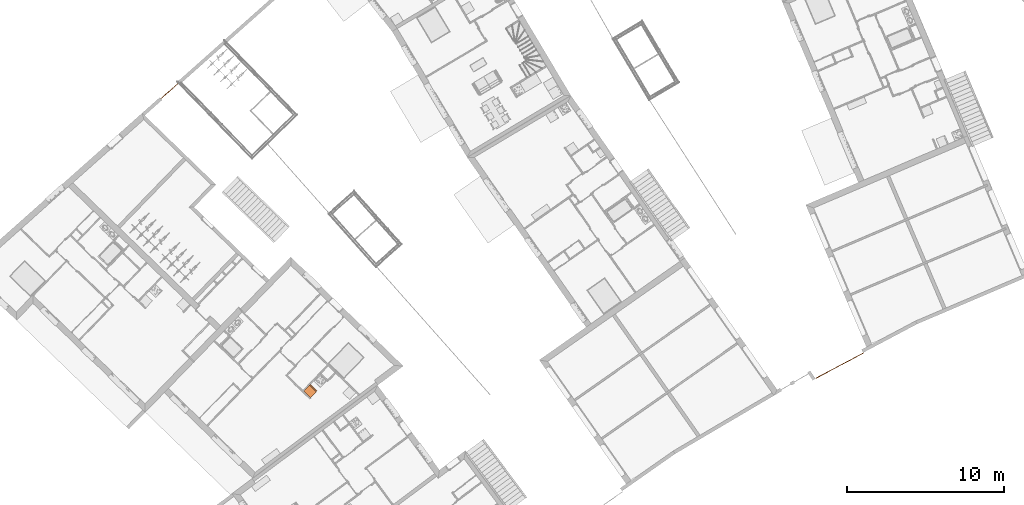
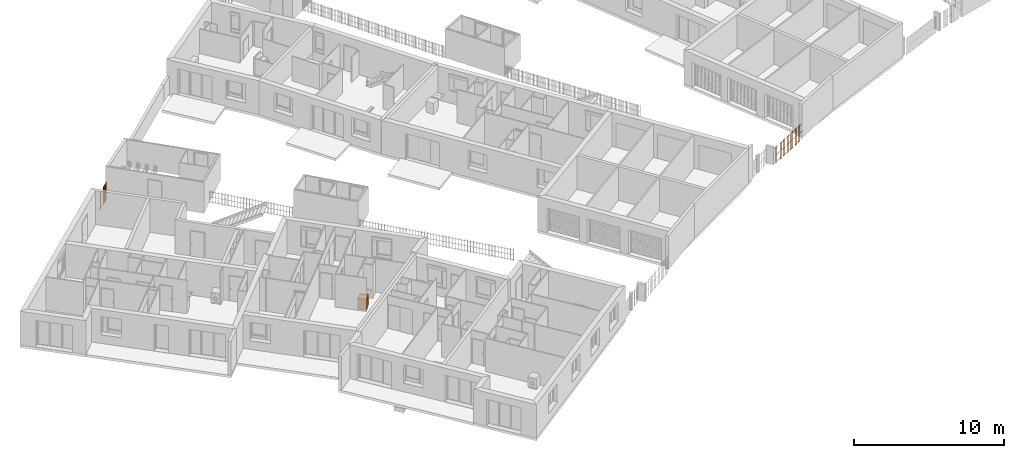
# One storey, part 172 of 195: 3 proxies.
"""IFC2X3 building model written with IfcOpenShell, lengths in metres."""

from ifc_helpers import new_model, entity, si_unit, converted_unit, derived_unit, money_unit, direction, frame, origin_with_axes, place, context, subcontext, project, spatial, open_shell, faceted_brep, surface_model, source, transform, mapped, type_object, element, save


model = new_model("IFC2X3")

# Units and contexts
model_context = context("Model", 3, precision=1e-05, world=origin_with_axes(), true_north=direction((0.0, 1.0)))
body_context = subcontext(model_context, "Body", "Model", "MODEL_VIEW")
ifc_project = project(units=[si_unit("LENGTHUNIT", "METRE"), si_unit("AREAUNIT", "SQUARE_METRE"), si_unit("VOLUMEUNIT", "CUBIC_METRE"), converted_unit("PLANEANGLEUNIT", "DEGREE", entity("IfcPlaneAngleMeasure", 0.0174532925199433), si_unit("PLANEANGLEUNIT", "RADIAN"), dimensions=[0, 0, 0, 0, 0, 0, 0]), money_unit("CHF"), converted_unit("TIMEUNIT", "Year", entity("IfcTimeMeasure", 31557600.0), si_unit("TIMEUNIT", "SECOND"), dimensions=[0, 0, 1, 0, 0, 0, 0]), si_unit("MASSUNIT", "GRAM", prefix="KILO"), si_unit("THERMODYNAMICTEMPERATUREUNIT", "DEGREE_CELSIUS"), si_unit("LUMINOUSINTENSITYUNIT", "LUMEN"), si_unit("ENERGYUNIT", "JOULE", prefix="MEGA"), derived_unit("THERMALCONDUCTANCEUNIT", [(si_unit("POWERUNIT", "WATT"), 1), (si_unit("LENGTHUNIT", "METRE"), -1), (si_unit("THERMODYNAMICTEMPERATUREUNIT", "KELVIN"), -1)]), derived_unit("SPECIFICHEATCAPACITYUNIT", [(si_unit("ENERGYUNIT", "JOULE"), 1), (si_unit("MASSUNIT", "GRAM", prefix="KILO"), -1), (si_unit("THERMODYNAMICTEMPERATUREUNIT", "KELVIN"), -1)]), derived_unit("MASSDENSITYUNIT", [(si_unit("MASSUNIT", "GRAM", prefix="KILO"), 1), (si_unit("VOLUMEUNIT", "CUBIC_METRE"), -1)])], contexts=[model_context])

# Site, building, storey
site_placement = place(None, origin_with_axes())
site = spatial("IfcSite", under=ifc_project, at=site_placement, Name="Site", CompositionType="ELEMENT")
building_placement = place(site_placement, origin_with_axes())
building = spatial("IfcBuilding", under=site, at=building_placement, Name="Bâtiment", CompositionType="ELEMENT")
storey_placement = place(building_placement, origin_with_axes())
storey = spatial("IfcBuildingStorey", under=building, at=storey_placement, Name="rdc", CompositionType="ELEMENT", Elevation=0.0)

# Proxies
building_element_proxy_type_1 = type_object("IfcBuildingElementProxyType", PredefinedType="NOTDEFINED")
shared_shape_1 = source(origin_with_axes(), body_context, "Body", "SurfaceModel", [
    faceted_brep([(0.0, 0.08, 0.1), (0.0, 0.08, 0.9), (-0.6, 0.08, 0.9), (-0.6, 0.08, 0.1), (0.0, 0.6, 0.1), (0.0, 0.6, 0.9), (-0.6, 0.6, 0.9), (-0.6, 0.6, 0.1)], [[[0, 1, 2, 3]], [[4, 5, 1, 0]], [[1, 5, 6, 2]], [[3, 2, 6, 7]], [[0, 3, 7, 4]], [[7, 6, 5, 4]]]),
    faceted_brep([(0.0, 0.08, 0.0), (0.0, 0.08, 0.1), (-0.6, 0.08, 0.1), (-0.6, 0.08, 0.0), (0.0, 0.6, 0.0), (0.0, 0.6, 0.1), (-0.6, 0.6, 0.1), (-0.6, 0.6, 0.0)], [[[0, 1, 2, 3]], [[4, 5, 1, 0]], [[1, 5, 6, 2]], [[3, 2, 6, 7]], [[0, 3, 7, 4]], [[7, 6, 5, 4]]]),
    faceted_brep([(0.0, 0.07, 0.1), (0.0, 0.0, 0.1), (-0.6, 0.0, 0.1), (-0.6, 0.07, 0.1), (0.0, 0.07000000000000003, 0.494), (0.0, 0.0, 0.494), (-0.6, 0.0, 0.494), (-0.6, 0.07000000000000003, 0.494)], [[[0, 1, 2, 3]], [[4, 5, 1, 0]], [[1, 5, 6, 2]], [[3, 2, 6, 7]], [[0, 3, 7, 4]], [[7, 6, 5, 4]]]),
    faceted_brep([(0.0, 0.07, 0.5), (0.0, 0.0, 0.5), (-0.6, 0.0, 0.5), (-0.6, 0.07, 0.5), (0.0, 0.07000000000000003, 0.9), (0.0, 0.0, 0.9), (-0.6, 0.0, 0.9), (-0.6, 0.07000000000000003, 0.9)], [[[0, 1, 2, 3]], [[4, 5, 1, 0]], [[1, 5, 6, 2]], [[3, 2, 6, 7]], [[0, 3, 7, 4]], [[7, 6, 5, 4]]]),
    surface_model("IfcShellBasedSurfaceModel", [(-0.6, -0.03, 0.3), (-0.6, 0.0, 0.3), (-0.6, 0.0, 0.4940000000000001), (-0.6, -0.03, 0.4940000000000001)], [open_shell([[[0, 1, 2, 3]]])]),
    surface_model("IfcShellBasedSurfaceModel", [(-0.6, -0.03, 0.3), (-0.57, -0.03, 0.3), (-0.57, -0.03, 0.4940000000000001), (-0.6, -0.03, 0.4940000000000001)], [open_shell([[[0, 1, 2, 3]]])]),
    surface_model("IfcShellBasedSurfaceModel", [(-0.6, -0.03, 0.5), (-0.6, 0.0, 0.5), (-0.6, 0.0, 0.7), (-0.6, -0.03, 0.7)], [open_shell([[[0, 1, 2, 3]]])]),
    surface_model("IfcShellBasedSurfaceModel", [(-0.6, -0.03, 0.5), (-0.57, -0.03, 0.5), (-0.57, -0.03, 0.7), (-0.6, -0.03, 0.7)], [open_shell([[[0, 1, 2, 3]]])]),
])
proxy_1_placement = place(storey_placement, frame((9533.23525521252, -1069.65949358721, 57.7), z_axis=(0.0, 0.0, 1.0), x_axis=(-0.7182234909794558, 0.6958124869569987, 0.0)))
element("IfcBuildingElementProxy", 1, at=proxy_1_placement, inside=storey, type_object=building_element_proxy_type_1, Name="Obj.-019", context=body_context, shape_type="MappedRepresentation", body=[
    mapped(shared_shape_1, transform((0.0, 0.0, 0.0))),
])
building_element_proxy_type_2 = type_object("IfcBuildingElementProxyType", Name="Grille anti-effraction", PredefinedType="NOTDEFINED")
shared_shape_2 = source(origin_with_axes(), body_context, "Body", "Brep", [
    faceted_brep([(1.707795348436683, -0.01, 0.1), (1.707795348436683, 0.0, 0.09000000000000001), (1.707795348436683, 0.01, 0.1), (1.707795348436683, 0.0, 0.11), (-1.707795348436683, -0.01, 0.1000000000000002), (-1.707795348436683, 0.0, 0.09000000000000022), (-1.707795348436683, 0.01, 0.1000000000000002), (-1.707795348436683, 0.0, 0.1100000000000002)], [[[0, 1, 2, 3]], [[0, 4, 5, 1]], [[1, 5, 6, 2]], [[2, 6, 7, 3]], [[3, 7, 4, 0]], [[4, 7, 6, 5]]]),
    faceted_brep([(1.707795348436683, -0.01, 0.7), (1.707795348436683, 0.0, 0.69), (1.707795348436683, 0.01, 0.7), (1.707795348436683, 0.0, 0.71), (-1.707795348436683, -0.01, 0.7000000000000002), (-1.707795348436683, 0.0, 0.6900000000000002), (-1.707795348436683, 0.01, 0.7000000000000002), (-1.707795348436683, 0.0, 0.7100000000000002)], [[[0, 1, 2, 3]], [[0, 4, 5, 1]], [[1, 5, 6, 2]], [[2, 6, 7, 3]], [[3, 7, 4, 0]], [[4, 7, 6, 5]]]),
    faceted_brep([(1.707795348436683, -0.01, 1.3), (1.707795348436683, 0.0, 1.29), (1.707795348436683, 0.01, 1.3), (1.707795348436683, 0.0, 1.31), (-1.707795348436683, -0.01, 1.3), (-1.707795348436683, 0.0, 1.29), (-1.707795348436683, 0.01, 1.3), (-1.707795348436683, 0.0, 1.31)], [[[0, 1, 2, 3]], [[0, 4, 5, 1]], [[1, 5, 6, 2]], [[2, 6, 7, 3]], [[3, 7, 4, 0]], [[4, 7, 6, 5]]]),
    faceted_brep([(1.607795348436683, -0.01, 0.0), (1.597795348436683, 0.0, 0.0), (1.607795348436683, 0.01, 0.0), (1.617795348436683, 0.0, 0.0), (1.607795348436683, -0.01, 1.4), (1.597795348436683, 0.0, 1.4), (1.607795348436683, 0.01, 1.4), (1.617795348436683, 0.0, 1.4)], [[[0, 1, 2, 3]], [[0, 4, 5, 1]], [[1, 5, 6, 2]], [[2, 6, 7, 3]], [[3, 7, 4, 0]], [[4, 7, 6, 5]]]),
    faceted_brep([(1.496912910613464, -0.01, 0.0), (1.486912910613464, 0.0, 0.0), (1.496912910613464, 0.01, 0.0), (1.506912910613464, 0.0, 0.0), (1.496912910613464, -0.01, 1.4), (1.486912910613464, 0.0, 1.4), (1.496912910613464, 0.01, 1.4), (1.506912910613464, 0.0, 1.4)], [[[0, 1, 2, 3]], [[0, 4, 5, 1]], [[1, 5, 6, 2]], [[2, 6, 7, 3]], [[3, 7, 4, 0]], [[4, 7, 6, 5]]]),
    faceted_brep([(1.386030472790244, -0.01, 0.0), (1.376030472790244, 0.0, 0.0), (1.386030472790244, 0.01, 0.0), (1.396030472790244, 0.0, 0.0), (1.386030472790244, -0.01, 1.4), (1.376030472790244, 0.0, 1.4), (1.386030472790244, 0.01, 1.4), (1.396030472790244, 0.0, 1.4)], [[[0, 1, 2, 3]], [[0, 4, 5, 1]], [[1, 5, 6, 2]], [[2, 6, 7, 3]], [[3, 7, 4, 0]], [[4, 7, 6, 5]]]),
    faceted_brep([(1.275148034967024, -0.01, 0.0), (1.265148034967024, 0.0, 0.0), (1.275148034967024, 0.01, 0.0), (1.285148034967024, 0.0, 0.0), (1.275148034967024, -0.01, 1.4), (1.265148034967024, 0.0, 1.4), (1.275148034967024, 0.01, 1.4), (1.285148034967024, 0.0, 1.4)], [[[0, 1, 2, 3]], [[0, 4, 5, 1]], [[1, 5, 6, 2]], [[2, 6, 7, 3]], [[3, 7, 4, 0]], [[4, 7, 6, 5]]]),
    faceted_brep([(1.164265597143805, -0.01, 0.0), (1.154265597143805, 0.0, 0.0), (1.164265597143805, 0.01, 0.0), (1.174265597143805, 0.0, 0.0), (1.164265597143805, -0.01, 1.4), (1.154265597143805, 0.0, 1.4), (1.164265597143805, 0.01, 1.4), (1.174265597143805, 0.0, 1.4)], [[[0, 1, 2, 3]], [[0, 4, 5, 1]], [[1, 5, 6, 2]], [[2, 6, 7, 3]], [[3, 7, 4, 0]], [[4, 7, 6, 5]]]),
    faceted_brep([(1.053383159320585, -0.01, 0.0), (1.043383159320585, 0.0, 0.0), (1.053383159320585, 0.01, 0.0), (1.063383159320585, 0.0, 0.0), (1.053383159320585, -0.01, 1.4), (1.043383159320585, 0.0, 1.4), (1.053383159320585, 0.01, 1.4), (1.063383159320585, 0.0, 1.4)], [[[0, 1, 2, 3]], [[0, 4, 5, 1]], [[1, 5, 6, 2]], [[2, 6, 7, 3]], [[3, 7, 4, 0]], [[4, 7, 6, 5]]]),
    faceted_brep([(0.9425007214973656, -0.01, 0.0), (0.9325007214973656, 0.0, 0.0), (0.9425007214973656, 0.01, 0.0), (0.9525007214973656, 0.0, 0.0), (0.9425007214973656, -0.01, 1.4), (0.9325007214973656, 0.0, 1.4), (0.9425007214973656, 0.01, 1.4), (0.9525007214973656, 0.0, 1.4)], [[[0, 1, 2, 3]], [[0, 4, 5, 1]], [[1, 5, 6, 2]], [[2, 6, 7, 3]], [[3, 7, 4, 0]], [[4, 7, 6, 5]]]),
    faceted_brep([(0.8316182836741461, -0.01, 0.0), (0.8216182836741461, 0.0, 0.0), (0.8316182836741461, 0.01, 0.0), (0.8416182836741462, 0.0, 0.0), (0.8316182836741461, -0.01, 1.4), (0.8216182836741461, 0.0, 1.4), (0.8316182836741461, 0.01, 1.4), (0.8416182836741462, 0.0, 1.4)], [[[0, 1, 2, 3]], [[0, 4, 5, 1]], [[1, 5, 6, 2]], [[2, 6, 7, 3]], [[3, 7, 4, 0]], [[4, 7, 6, 5]]]),
    faceted_brep([(0.7207358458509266, -0.01, 0.0), (0.7107358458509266, 0.0, 0.0), (0.7207358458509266, 0.01, 0.0), (0.7307358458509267, 0.0, 0.0), (0.7207358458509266, -0.01, 1.4), (0.7107358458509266, 0.0, 1.4), (0.7207358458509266, 0.01, 1.4), (0.7307358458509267, 0.0, 1.4)], [[[0, 1, 2, 3]], [[0, 4, 5, 1]], [[1, 5, 6, 2]], [[2, 6, 7, 3]], [[3, 7, 4, 0]], [[4, 7, 6, 5]]]),
    faceted_brep([(0.6098534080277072, -0.01, 0.0), (0.5998534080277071, 0.0, 0.0), (0.6098534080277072, 0.01, 0.0), (0.6198534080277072, 0.0, 0.0), (0.6098534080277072, -0.01, 1.4), (0.5998534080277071, 0.0, 1.4), (0.6098534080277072, 0.01, 1.4), (0.6198534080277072, 0.0, 1.4)], [[[0, 1, 2, 3]], [[0, 4, 5, 1]], [[1, 5, 6, 2]], [[2, 6, 7, 3]], [[3, 7, 4, 0]], [[4, 7, 6, 5]]]),
    faceted_brep([(0.4989709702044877, -0.01, 0.0), (0.4889709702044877, 0.0, 0.0), (0.4989709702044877, 0.01, 0.0), (0.5089709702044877, 0.0, 0.0), (0.4989709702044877, -0.01, 1.4), (0.4889709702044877, 0.0, 1.4), (0.4989709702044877, 0.01, 1.4), (0.5089709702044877, 0.0, 1.4)], [[[0, 1, 2, 3]], [[0, 4, 5, 1]], [[1, 5, 6, 2]], [[2, 6, 7, 3]], [[3, 7, 4, 0]], [[4, 7, 6, 5]]]),
    faceted_brep([(0.3880885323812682, -0.01, 0.0), (0.3780885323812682, 0.0, 0.0), (0.3880885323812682, 0.01, 0.0), (0.3980885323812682, 0.0, 0.0), (0.3880885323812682, -0.01, 1.4), (0.3780885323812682, 0.0, 1.4), (0.3880885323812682, 0.01, 1.4), (0.3980885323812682, 0.0, 1.4)], [[[0, 1, 2, 3]], [[0, 4, 5, 1]], [[1, 5, 6, 2]], [[2, 6, 7, 3]], [[3, 7, 4, 0]], [[4, 7, 6, 5]]]),
    faceted_brep([(0.2772060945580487, -0.01, 0.0), (0.2672060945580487, 0.0, 0.0), (0.2772060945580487, 0.01, 0.0), (0.2872060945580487, 0.0, 0.0), (0.2772060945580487, -0.01, 1.4), (0.2672060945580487, 0.0, 1.4), (0.2772060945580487, 0.01, 1.4), (0.2872060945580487, 0.0, 1.4)], [[[0, 1, 2, 3]], [[0, 4, 5, 1]], [[1, 5, 6, 2]], [[2, 6, 7, 3]], [[3, 7, 4, 0]], [[4, 7, 6, 5]]]),
    faceted_brep([(0.1663236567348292, -0.01, 0.0), (0.1563236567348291, 0.0, 0.0), (0.1663236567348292, 0.01, 0.0), (0.1763236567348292, 0.0, 0.0), (0.1663236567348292, -0.01, 1.4), (0.1563236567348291, 0.0, 1.4), (0.1663236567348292, 0.01, 1.4), (0.1763236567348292, 0.0, 1.4)], [[[0, 1, 2, 3]], [[0, 4, 5, 1]], [[1, 5, 6, 2]], [[2, 6, 7, 3]], [[3, 7, 4, 0]], [[4, 7, 6, 5]]]),
    faceted_brep([(0.05544121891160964, -0.01, 0.0), (0.04544121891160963, 0.0, 0.0), (0.05544121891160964, 0.01, 0.0), (0.06544121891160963, 0.0, 0.0), (0.05544121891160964, -0.01, 1.4), (0.04544121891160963, 0.0, 1.4), (0.05544121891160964, 0.01, 1.4), (0.06544121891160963, 0.0, 1.4)], [[[0, 1, 2, 3]], [[0, 4, 5, 1]], [[1, 5, 6, 2]], [[2, 6, 7, 3]], [[3, 7, 4, 0]], [[4, 7, 6, 5]]]),
    faceted_brep([(-0.05544121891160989, -0.01, 0.0), (-0.06544121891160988, 0.0, 0.0), (-0.05544121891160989, 0.01, 0.0), (-0.04544121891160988, 0.0, 0.0), (-0.05544121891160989, -0.01, 1.4), (-0.06544121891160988, 0.0, 1.4), (-0.05544121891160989, 0.01, 1.4), (-0.04544121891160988, 0.0, 1.4)], [[[0, 1, 2, 3]], [[0, 4, 5, 1]], [[1, 5, 6, 2]], [[2, 6, 7, 3]], [[3, 7, 4, 0]], [[4, 7, 6, 5]]]),
    faceted_brep([(-0.1663236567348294, -0.01, 0.0), (-0.1763236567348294, 0.0, 0.0), (-0.1663236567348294, 0.01, 0.0), (-0.1563236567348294, 0.0, 0.0), (-0.1663236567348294, -0.01, 1.4), (-0.1763236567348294, 0.0, 1.4), (-0.1663236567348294, 0.01, 1.4), (-0.1563236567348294, 0.0, 1.4)], [[[0, 1, 2, 3]], [[0, 4, 5, 1]], [[1, 5, 6, 2]], [[2, 6, 7, 3]], [[3, 7, 4, 0]], [[4, 7, 6, 5]]]),
    faceted_brep([(-0.2772060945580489, -0.01, 0.0), (-0.2872060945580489, 0.0, 0.0), (-0.2772060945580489, 0.01, 0.0), (-0.2672060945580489, 0.0, 0.0), (-0.2772060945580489, -0.01, 1.4), (-0.2872060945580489, 0.0, 1.4), (-0.2772060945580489, 0.01, 1.4), (-0.2672060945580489, 0.0, 1.4)], [[[0, 1, 2, 3]], [[0, 4, 5, 1]], [[1, 5, 6, 2]], [[2, 6, 7, 3]], [[3, 7, 4, 0]], [[4, 7, 6, 5]]]),
    faceted_brep([(-0.3880885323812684, -0.01, 0.0), (-0.3980885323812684, 0.0, 0.0), (-0.3880885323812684, 0.01, 0.0), (-0.3780885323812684, 0.0, 0.0), (-0.3880885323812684, -0.01, 1.4), (-0.3980885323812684, 0.0, 1.4), (-0.3880885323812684, 0.01, 1.4), (-0.3780885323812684, 0.0, 1.4)], [[[0, 1, 2, 3]], [[0, 4, 5, 1]], [[1, 5, 6, 2]], [[2, 6, 7, 3]], [[3, 7, 4, 0]], [[4, 7, 6, 5]]]),
    faceted_brep([(-0.4989709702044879, -0.01, 0.0), (-0.5089709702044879, 0.0, 0.0), (-0.4989709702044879, 0.01, 0.0), (-0.4889709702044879, 0.0, 0.0), (-0.4989709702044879, -0.01, 1.4), (-0.5089709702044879, 0.0, 1.4), (-0.4989709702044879, 0.01, 1.4), (-0.4889709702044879, 0.0, 1.4)], [[[0, 1, 2, 3]], [[0, 4, 5, 1]], [[1, 5, 6, 2]], [[2, 6, 7, 3]], [[3, 7, 4, 0]], [[4, 7, 6, 5]]]),
    faceted_brep([(-0.6098534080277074, -0.01, 0.0), (-0.6198534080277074, 0.0, 0.0), (-0.6098534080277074, 0.01, 0.0), (-0.5998534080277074, 0.0, 0.0), (-0.6098534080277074, -0.01, 1.4), (-0.6198534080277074, 0.0, 1.4), (-0.6098534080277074, 0.01, 1.4), (-0.5998534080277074, 0.0, 1.4)], [[[0, 1, 2, 3]], [[0, 4, 5, 1]], [[1, 5, 6, 2]], [[2, 6, 7, 3]], [[3, 7, 4, 0]], [[4, 7, 6, 5]]]),
    faceted_brep([(-0.7207358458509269, -0.01, 0.0), (-0.7307358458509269, 0.0, 0.0), (-0.7207358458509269, 0.01, 0.0), (-0.7107358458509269, 0.0, 0.0), (-0.7207358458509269, -0.01, 1.4), (-0.7307358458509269, 0.0, 1.4), (-0.7207358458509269, 0.01, 1.4), (-0.7107358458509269, 0.0, 1.4)], [[[0, 1, 2, 3]], [[0, 4, 5, 1]], [[1, 5, 6, 2]], [[2, 6, 7, 3]], [[3, 7, 4, 0]], [[4, 7, 6, 5]]]),
    faceted_brep([(-0.8316182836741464, -0.01, 0.0), (-0.8416182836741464, 0.0, 0.0), (-0.8316182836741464, 0.01, 0.0), (-0.8216182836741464, 0.0, 0.0), (-0.8316182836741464, -0.01, 1.4), (-0.8416182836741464, 0.0, 1.4), (-0.8316182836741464, 0.01, 1.4), (-0.8216182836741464, 0.0, 1.4)], [[[0, 1, 2, 3]], [[0, 4, 5, 1]], [[1, 5, 6, 2]], [[2, 6, 7, 3]], [[3, 7, 4, 0]], [[4, 7, 6, 5]]]),
    faceted_brep([(-0.9425007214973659, -0.01, 0.0), (-0.9525007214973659, 0.0, 0.0), (-0.9425007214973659, 0.01, 0.0), (-0.9325007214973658, 0.0, 0.0), (-0.9425007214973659, -0.01, 1.4), (-0.9525007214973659, 0.0, 1.4), (-0.9425007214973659, 0.01, 1.4), (-0.9325007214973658, 0.0, 1.4)], [[[0, 1, 2, 3]], [[0, 4, 5, 1]], [[1, 5, 6, 2]], [[2, 6, 7, 3]], [[3, 7, 4, 0]], [[4, 7, 6, 5]]]),
    faceted_brep([(-1.053383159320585, -0.01, 0.0), (-1.063383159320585, 0.0, 0.0), (-1.053383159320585, 0.01, 0.0), (-1.043383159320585, 0.0, 0.0), (-1.053383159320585, -0.01, 1.4), (-1.063383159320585, 0.0, 1.4), (-1.053383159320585, 0.01, 1.4), (-1.043383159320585, 0.0, 1.4)], [[[0, 1, 2, 3]], [[0, 4, 5, 1]], [[1, 5, 6, 2]], [[2, 6, 7, 3]], [[3, 7, 4, 0]], [[4, 7, 6, 5]]]),
    faceted_brep([(-1.164265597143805, -0.01, 0.0), (-1.174265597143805, 0.0, 0.0), (-1.164265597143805, 0.01, 0.0), (-1.154265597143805, 0.0, 0.0), (-1.164265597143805, -0.01, 1.4), (-1.174265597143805, 0.0, 1.4), (-1.164265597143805, 0.01, 1.4), (-1.154265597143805, 0.0, 1.4)], [[[0, 1, 2, 3]], [[0, 4, 5, 1]], [[1, 5, 6, 2]], [[2, 6, 7, 3]], [[3, 7, 4, 0]], [[4, 7, 6, 5]]]),
    faceted_brep([(-1.275148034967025, -0.01, 0.0), (-1.285148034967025, 0.0, 0.0), (-1.275148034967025, 0.01, 0.0), (-1.265148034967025, 0.0, 0.0), (-1.275148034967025, -0.01, 1.4), (-1.285148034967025, 0.0, 1.4), (-1.275148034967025, 0.01, 1.4), (-1.265148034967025, 0.0, 1.4)], [[[0, 1, 2, 3]], [[0, 4, 5, 1]], [[1, 5, 6, 2]], [[2, 6, 7, 3]], [[3, 7, 4, 0]], [[4, 7, 6, 5]]]),
    faceted_brep([(-1.386030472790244, -0.01, 0.0), (-1.396030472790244, 0.0, 0.0), (-1.386030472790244, 0.01, 0.0), (-1.376030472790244, 0.0, 0.0), (-1.386030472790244, -0.01, 1.4), (-1.396030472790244, 0.0, 1.4), (-1.386030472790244, 0.01, 1.4), (-1.376030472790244, 0.0, 1.4)], [[[0, 1, 2, 3]], [[0, 4, 5, 1]], [[1, 5, 6, 2]], [[2, 6, 7, 3]], [[3, 7, 4, 0]], [[4, 7, 6, 5]]]),
    faceted_brep([(-1.496912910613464, -0.01, 0.0), (-1.506912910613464, 0.0, 0.0), (-1.496912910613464, 0.01, 0.0), (-1.486912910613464, 0.0, 0.0), (-1.496912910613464, -0.01, 1.4), (-1.506912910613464, 0.0, 1.4), (-1.496912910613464, 0.01, 1.4), (-1.486912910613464, 0.0, 1.4)], [[[0, 1, 2, 3]], [[0, 4, 5, 1]], [[1, 5, 6, 2]], [[2, 6, 7, 3]], [[3, 7, 4, 0]], [[4, 7, 6, 5]]]),
    faceted_brep([(-1.607795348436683, -0.01, 0.0), (-1.617795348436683, 0.0, 0.0), (-1.607795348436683, 0.01, 0.0), (-1.597795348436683, 0.0, 0.0), (-1.607795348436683, -0.01, 1.4), (-1.617795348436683, 0.0, 1.4), (-1.607795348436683, 0.01, 1.4), (-1.597795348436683, 0.0, 1.4)], [[[0, 1, 2, 3]], [[0, 4, 5, 1]], [[1, 5, 6, 2]], [[2, 6, 7, 3]], [[3, 7, 4, 0]], [[4, 7, 6, 5]]]),
])
proxy_2_placement = place(storey_placement, frame((9566.933167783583, -1068.472833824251, 57.6), z_axis=(0.0, 0.0, 1.0), x_axis=(-0.8836000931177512, -0.4682423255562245, 0.0)))
element("IfcBuildingElementProxy", 2, at=proxy_2_placement, inside=storey, type_object=building_element_proxy_type_2, Name="Obj.-010", context=body_context, shape_type="MappedRepresentation", body=[
    mapped(shared_shape_2, transform((0.0, 0.0, 0.0))),
])
shared_shape_3 = source(origin_with_axes(), body_context, "Body", "Brep", [
    faceted_brep([(0.7605730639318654, -0.01, 0.1), (0.7605730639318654, 0.0, 0.09000000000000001), (0.7605730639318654, 0.01, 0.1), (0.7605730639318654, 0.0, 0.11), (-0.7605730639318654, -0.01, 0.1000000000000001), (-0.7605730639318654, 0.0, 0.0900000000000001), (-0.7605730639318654, 0.01, 0.1000000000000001), (-0.7605730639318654, 0.0, 0.1100000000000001)], [[[0, 1, 2, 3]], [[0, 4, 5, 1]], [[1, 5, 6, 2]], [[2, 6, 7, 3]], [[3, 7, 4, 0]], [[4, 7, 6, 5]]]),
    faceted_brep([(0.7605730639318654, -0.01, 0.75), (0.7605730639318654, 0.0, 0.74), (0.7605730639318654, 0.01, 0.75), (0.7605730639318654, 0.0, 0.76), (-0.7605730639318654, -0.01, 0.7500000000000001), (-0.7605730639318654, 0.0, 0.7400000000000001), (-0.7605730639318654, 0.01, 0.7500000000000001), (-0.7605730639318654, 0.0, 0.7600000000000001)], [[[0, 1, 2, 3]], [[0, 4, 5, 1]], [[1, 5, 6, 2]], [[2, 6, 7, 3]], [[3, 7, 4, 0]], [[4, 7, 6, 5]]]),
    faceted_brep([(0.7605730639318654, -0.01, 1.4), (0.7605730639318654, 0.0, 1.39), (0.7605730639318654, 0.01, 1.4), (0.7605730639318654, 0.0, 1.41), (-0.7605730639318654, -0.01, 1.4), (-0.7605730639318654, 0.0, 1.39), (-0.7605730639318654, 0.01, 1.4), (-0.7605730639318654, 0.0, 1.41)], [[[0, 1, 2, 3]], [[0, 4, 5, 1]], [[1, 5, 6, 2]], [[2, 6, 7, 3]], [[3, 7, 4, 0]], [[4, 7, 6, 5]]]),
    faceted_brep([(0.6605730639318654, -0.01, 0.0), (0.6505730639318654, 0.0, 0.0), (0.6605730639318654, 0.01, 0.0), (0.6705730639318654, 0.0, 0.0), (0.6605730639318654, -0.01, 1.5), (0.6505730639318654, 0.0, 1.5), (0.6605730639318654, 0.01, 1.5), (0.6705730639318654, 0.0, 1.5)], [[[0, 1, 2, 3]], [[0, 4, 5, 1]], [[1, 5, 6, 2]], [[2, 6, 7, 3]], [[3, 7, 4, 0]], [[4, 7, 6, 5]]]),
    faceted_brep([(0.5662054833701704, -0.01, 0.0), (0.5562054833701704, 0.0, 0.0), (0.5662054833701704, 0.01, 0.0), (0.5762054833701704, 0.0, 0.0), (0.5662054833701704, -0.01, 1.5), (0.5562054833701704, 0.0, 1.5), (0.5662054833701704, 0.01, 1.5), (0.5762054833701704, 0.0, 1.5)], [[[0, 1, 2, 3]], [[0, 4, 5, 1]], [[1, 5, 6, 2]], [[2, 6, 7, 3]], [[3, 7, 4, 0]], [[4, 7, 6, 5]]]),
    faceted_brep([(0.4718379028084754, -0.01, 0.0), (0.4618379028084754, 0.0, 0.0), (0.4718379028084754, 0.01, 0.0), (0.4818379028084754, 0.0, 0.0), (0.4718379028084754, -0.01, 1.5), (0.4618379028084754, 0.0, 1.5), (0.4718379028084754, 0.01, 1.5), (0.4818379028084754, 0.0, 1.5)], [[[0, 1, 2, 3]], [[0, 4, 5, 1]], [[1, 5, 6, 2]], [[2, 6, 7, 3]], [[3, 7, 4, 0]], [[4, 7, 6, 5]]]),
    faceted_brep([(0.3774703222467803, -0.01, 0.0), (0.3674703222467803, 0.0, 0.0), (0.3774703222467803, 0.01, 0.0), (0.3874703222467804, 0.0, 0.0), (0.3774703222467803, -0.01, 1.5), (0.3674703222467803, 0.0, 1.5), (0.3774703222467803, 0.01, 1.5), (0.3874703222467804, 0.0, 1.5)], [[[0, 1, 2, 3]], [[0, 4, 5, 1]], [[1, 5, 6, 2]], [[2, 6, 7, 3]], [[3, 7, 4, 0]], [[4, 7, 6, 5]]]),
    faceted_brep([(0.2831027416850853, -0.01, 0.0), (0.2731027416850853, 0.0, 0.0), (0.2831027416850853, 0.01, 0.0), (0.2931027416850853, 0.0, 0.0), (0.2831027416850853, -0.01, 1.5), (0.2731027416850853, 0.0, 1.5), (0.2831027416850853, 0.01, 1.5), (0.2931027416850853, 0.0, 1.5)], [[[0, 1, 2, 3]], [[0, 4, 5, 1]], [[1, 5, 6, 2]], [[2, 6, 7, 3]], [[3, 7, 4, 0]], [[4, 7, 6, 5]]]),
    faceted_brep([(0.1887351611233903, -0.01, 0.0), (0.1787351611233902, 0.0, 0.0), (0.1887351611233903, 0.01, 0.0), (0.1987351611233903, 0.0, 0.0), (0.1887351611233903, -0.01, 1.5), (0.1787351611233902, 0.0, 1.5), (0.1887351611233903, 0.01, 1.5), (0.1987351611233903, 0.0, 1.5)], [[[0, 1, 2, 3]], [[0, 4, 5, 1]], [[1, 5, 6, 2]], [[2, 6, 7, 3]], [[3, 7, 4, 0]], [[4, 7, 6, 5]]]),
    faceted_brep([(0.0943675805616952, -0.01, 0.0), (0.0843675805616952, 0.0, 0.0), (0.0943675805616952, 0.01, 0.0), (0.1043675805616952, 0.0, 0.0), (0.0943675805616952, -0.01, 1.5), (0.0843675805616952, 0.0, 1.5), (0.0943675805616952, 0.01, 1.5), (0.1043675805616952, 0.0, 1.5)], [[[0, 1, 2, 3]], [[0, 4, 5, 1]], [[1, 5, 6, 2]], [[2, 6, 7, 3]], [[3, 7, 4, 0]], [[4, 7, 6, 5]]]),
    faceted_brep([(0.0, -0.01, 0.0), (-0.009999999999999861, 0.0, 0.0), (0.0, 0.01, 0.0), (0.01000000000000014, 0.0, 0.0), (0.0, -0.01, 1.5), (-0.009999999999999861, 0.0, 1.5), (0.0, 0.01, 1.5), (0.01000000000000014, 0.0, 1.5)], [[[0, 1, 2, 3]], [[0, 4, 5, 1]], [[1, 5, 6, 2]], [[2, 6, 7, 3]], [[3, 7, 4, 0]], [[4, 7, 6, 5]]]),
    faceted_brep([(-0.09436758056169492, -0.01, 0.0), (-0.1043675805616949, 0.0, 0.0), (-0.09436758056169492, 0.01, 0.0), (-0.08436758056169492, 0.0, 0.0), (-0.09436758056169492, -0.01, 1.5), (-0.1043675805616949, 0.0, 1.5), (-0.09436758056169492, 0.01, 1.5), (-0.08436758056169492, 0.0, 1.5)], [[[0, 1, 2, 3]], [[0, 4, 5, 1]], [[1, 5, 6, 2]], [[2, 6, 7, 3]], [[3, 7, 4, 0]], [[4, 7, 6, 5]]]),
    faceted_brep([(-0.18873516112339, -0.01, 0.0), (-0.19873516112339, 0.0, 0.0), (-0.18873516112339, 0.01, 0.0), (-0.17873516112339, 0.0, 0.0), (-0.18873516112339, -0.01, 1.5), (-0.19873516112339, 0.0, 1.5), (-0.18873516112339, 0.01, 1.5), (-0.17873516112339, 0.0, 1.5)], [[[0, 1, 2, 3]], [[0, 4, 5, 1]], [[1, 5, 6, 2]], [[2, 6, 7, 3]], [[3, 7, 4, 0]], [[4, 7, 6, 5]]]),
    faceted_brep([(-0.283102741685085, -0.01, 0.0), (-0.293102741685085, 0.0, 0.0), (-0.283102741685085, 0.01, 0.0), (-0.273102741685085, 0.0, 0.0), (-0.283102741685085, -0.01, 1.5), (-0.293102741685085, 0.0, 1.5), (-0.283102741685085, 0.01, 1.5), (-0.273102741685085, 0.0, 1.5)], [[[0, 1, 2, 3]], [[0, 4, 5, 1]], [[1, 5, 6, 2]], [[2, 6, 7, 3]], [[3, 7, 4, 0]], [[4, 7, 6, 5]]]),
    faceted_brep([(-0.3774703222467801, -0.01, 0.0), (-0.3874703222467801, 0.0, 0.0), (-0.3774703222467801, 0.01, 0.0), (-0.3674703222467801, 0.0, 0.0), (-0.3774703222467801, -0.01, 1.5), (-0.3874703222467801, 0.0, 1.5), (-0.3774703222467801, 0.01, 1.5), (-0.3674703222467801, 0.0, 1.5)], [[[0, 1, 2, 3]], [[0, 4, 5, 1]], [[1, 5, 6, 2]], [[2, 6, 7, 3]], [[3, 7, 4, 0]], [[4, 7, 6, 5]]]),
    faceted_brep([(-0.4718379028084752, -0.01, 0.0), (-0.4818379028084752, 0.0, 0.0), (-0.4718379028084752, 0.01, 0.0), (-0.4618379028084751, 0.0, 0.0), (-0.4718379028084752, -0.01, 1.5), (-0.4818379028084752, 0.0, 1.5), (-0.4718379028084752, 0.01, 1.5), (-0.4618379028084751, 0.0, 1.5)], [[[0, 1, 2, 3]], [[0, 4, 5, 1]], [[1, 5, 6, 2]], [[2, 6, 7, 3]], [[3, 7, 4, 0]], [[4, 7, 6, 5]]]),
    faceted_brep([(-0.5662054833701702, -0.01, 0.0), (-0.5762054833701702, 0.0, 0.0), (-0.5662054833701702, 0.01, 0.0), (-0.5562054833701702, 0.0, 0.0), (-0.5662054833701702, -0.01, 1.5), (-0.5762054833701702, 0.0, 1.5), (-0.5662054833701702, 0.01, 1.5), (-0.5562054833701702, 0.0, 1.5)], [[[0, 1, 2, 3]], [[0, 4, 5, 1]], [[1, 5, 6, 2]], [[2, 6, 7, 3]], [[3, 7, 4, 0]], [[4, 7, 6, 5]]]),
    faceted_brep([(-0.6605730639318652, -0.01, 0.0), (-0.6705730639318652, 0.0, 0.0), (-0.6605730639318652, 0.01, 0.0), (-0.6505730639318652, 0.0, 0.0), (-0.6605730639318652, -0.01, 1.5), (-0.6705730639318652, 0.0, 1.5), (-0.6605730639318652, 0.01, 1.5), (-0.6505730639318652, 0.0, 1.5)], [[[0, 1, 2, 3]], [[0, 4, 5, 1]], [[1, 5, 6, 2]], [[2, 6, 7, 3]], [[3, 7, 4, 0]], [[4, 7, 6, 5]]]),
])
proxy_3_placement = place(storey_placement, frame((9524.280327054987, -1050.981510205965, 57.6), z_axis=(0.0, 0.0, 1.0), x_axis=(-0.7533978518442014, -0.6575649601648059, 0.0)))
element("IfcBuildingElementProxy", 3, at=proxy_3_placement, inside=storey, type_object=building_element_proxy_type_2, Name="Obj.-010", context=body_context, shape_type="MappedRepresentation", body=[
    mapped(shared_shape_3, transform((0.0, 0.0, 0.0))),
])

save(model, "model.ifc")
